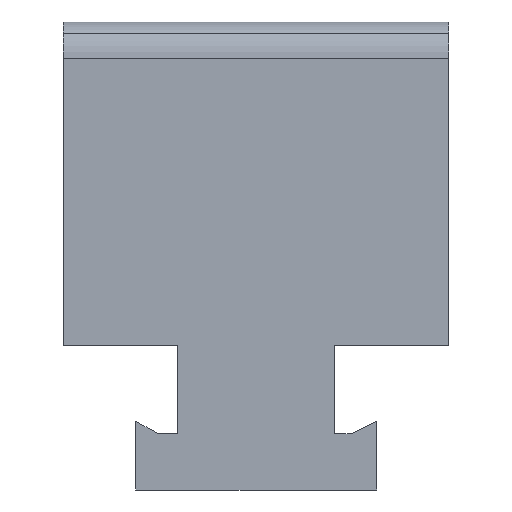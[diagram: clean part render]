
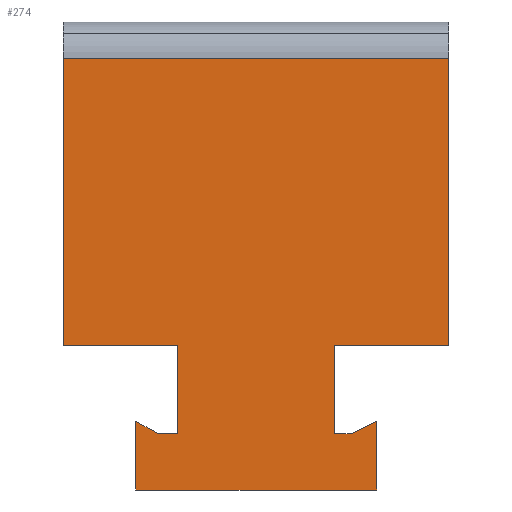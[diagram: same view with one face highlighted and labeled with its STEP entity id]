
A CAD part, left-side view. The second image highlights one B-rep face of the part: STEP entity #274.
In plain terms, the highlighted planar face has unit normal (-1, 0, 0).
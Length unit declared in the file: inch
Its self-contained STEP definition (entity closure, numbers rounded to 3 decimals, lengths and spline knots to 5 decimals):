
#148=EDGE_CURVE('',#412,#413,#414,.T.);
#154=EDGE_CURVE('',#424,#412,#425,.T.);
#274=ADVANCED_FACE('',(#614),#615,.T.);
#320=EDGE_CURVE('',#678,#679,#680,.T.);
#382=EDGE_CURVE('',#768,#413,#769,.T.);
#412=VERTEX_POINT('',#793);
#413=VERTEX_POINT('',#794);
#414=LINE('',#795,#796);
#424=VERTEX_POINT('',#811);
#425=LINE('',#812,#813);
#614=FACE_OUTER_BOUND('',#1175,.T.);
#615=PLANE('',#1176);
#678=VERTEX_POINT('',#1304);
#679=VERTEX_POINT('',#1305);
#680=LINE('',#1306,#1307);
#768=VERTEX_POINT('',#1501);
#769=LINE('',#1502,#1503);
#793=CARTESIAN_POINT('',(0.0,2.0,1.49107));
#794=CARTESIAN_POINT('',(0.0,0.,1.49107));
#795=CARTESIAN_POINT('',(0.0,2.0,1.49107));
#796=VECTOR('',#1527,1.0);
#811=CARTESIAN_POINT('',(0.0,2.0,0.));
#812=CARTESIAN_POINT('',(0.0,2.0,-0.74988));
#813=VECTOR('',#1530,1.0);
#1175=EDGE_LOOP('',(#1847,#1848,#1849,#1850,#1851,#1852,#1853,#1854,#1855,#1856,#1857,#1858,#1859,#1860));
#1176=AXIS2_PLACEMENT_3D('',#1861,#1862,#1863);
#1304=CARTESIAN_POINT('',(0.0,1.62468,-0.74988));
#1305=CARTESIAN_POINT('',(0.0,0.37467,-0.74988));
#1306=CARTESIAN_POINT('',(0.0,2.0,-0.74988));
#1307=VECTOR('',#1965,1.0);
#1501=CARTESIAN_POINT('',(0.0,0.,0.));
#1502=CARTESIAN_POINT('',(0.0,0.,-0.74988));
#1503=VECTOR('',#2167,1.0);
#1527=DIRECTION('',(0.0,-1.0,0.0));
#1530=DIRECTION('',(0.0,0.0,1.0));
#1847=ORIENTED_EDGE('',*,*,#2300,.T.);
#1848=ORIENTED_EDGE('',*,*,#2309,.T.);
#1849=ORIENTED_EDGE('',*,*,#2275,.T.);
#1850=ORIENTED_EDGE('',*,*,#2339,.T.);
#1851=ORIENTED_EDGE('',*,*,#2319,.T.);
#1852=ORIENTED_EDGE('',*,*,#382,.T.);
#1853=ORIENTED_EDGE('',*,*,#148,.F.);
#1854=ORIENTED_EDGE('',*,*,#154,.F.);
#1855=ORIENTED_EDGE('',*,*,#2340,.T.);
#1856=ORIENTED_EDGE('',*,*,#2324,.T.);
#1857=ORIENTED_EDGE('',*,*,#2341,.T.);
#1858=ORIENTED_EDGE('',*,*,#2342,.T.);
#1859=ORIENTED_EDGE('',*,*,#2244,.T.);
#1860=ORIENTED_EDGE('',*,*,#320,.T.);
#1861=CARTESIAN_POINT('',(0.0,2.0,0.3706));
#1862=DIRECTION('',(-1.0,0.0,0.0));
#1863=DIRECTION('',(0.0,0.0,-1.0));
#1965=DIRECTION('',(0.0,-1.0,0.0));
#2167=DIRECTION('',(0.0,0.0,1.0));
#2244=EDGE_CURVE('',#2490,#678,#2491,.T.);
#2275=EDGE_CURVE('',#2538,#2536,#2539,.T.);
#2300=EDGE_CURVE('',#679,#2571,#2573,.T.);
#2309=EDGE_CURVE('',#2571,#2538,#2583,.T.);
#2319=EDGE_CURVE('',#2597,#768,#2598,.T.);
#2324=EDGE_CURVE('',#2604,#2602,#2605,.T.);
#2339=EDGE_CURVE('',#2536,#2597,#2621,.T.);
#2340=EDGE_CURVE('',#424,#2604,#2622,.T.);
#2341=EDGE_CURVE('',#2602,#2623,#2624,.T.);
#2342=EDGE_CURVE('',#2623,#2490,#2625,.T.);
#2490=VERTEX_POINT('',#2826);
#2491=LINE('',#2827,#2828);
#2536=VERTEX_POINT('',#2911);
#2538=VERTEX_POINT('',#2914);
#2539=LINE('',#2915,#2916);
#2571=VERTEX_POINT('',#2966);
#2573=LINE('',#2969,#2970);
#2583=LINE('',#2984,#2985);
#2597=VERTEX_POINT('',#3005);
#2598=LINE('',#3006,#3007);
#2602=VERTEX_POINT('',#3013);
#2604=VERTEX_POINT('',#3016);
#2605=LINE('',#3017,#3018);
#2621=LINE('',#3046,#3047);
#2622=LINE('',#3048,#3049);
#2623=VERTEX_POINT('',#3050);
#2624=LINE('',#3051,#3052);
#2625=LINE('',#3053,#3054);
#2826=CARTESIAN_POINT('',(0.0,1.62468,-0.39256));
#2827=CARTESIAN_POINT('',(0.0,1.62468,-0.12285));
#2828=VECTOR('',#3220,1.0);
#2911=CARTESIAN_POINT('',(0.0,0.59367,-0.45837));
#2914=CARTESIAN_POINT('',(0.0,0.50572,-0.45837));
#2915=CARTESIAN_POINT('',(0.0,1.27485,-0.45837));
#2916=VECTOR('',#3236,1.0);
#2966=CARTESIAN_POINT('',(0.0,0.37467,-0.39256));
#2969=CARTESIAN_POINT('',(0.0,0.37467,-0.12285));
#2970=VECTOR('',#3253,1.0);
#2984=CARTESIAN_POINT('',(0.0,0.9034,-0.65808));
#2985=VECTOR('',#3261,1.0);
#3005=CARTESIAN_POINT('',(0.0,0.59367,0.));
#3006=CARTESIAN_POINT('',(0.0,1.14842,0.));
#3007=VECTOR('',#3268,1.0);
#3013=CARTESIAN_POINT('',(0.0,1.40617,-0.45837));
#3016=CARTESIAN_POINT('',(0.0,1.40617,0.));
#3017=CARTESIAN_POINT('',(0.0,1.40617,0.0707));
#3018=VECTOR('',#3272,1.0);
#3046=CARTESIAN_POINT('',(0.0,0.59367,0.0707));
#3047=VECTOR('',#3285,1.0);
#3048=CARTESIAN_POINT('',(0.0,1.85154,0.));
#3049=VECTOR('',#3286,1.0);
#3050=CARTESIAN_POINT('',(0.0,1.50572,-0.45837));
#3051=CARTESIAN_POINT('',(0.0,1.72797,-0.45837));
#3052=VECTOR('',#3287,1.0);
#3053=CARTESIAN_POINT('',(0.0,1.90026,-0.2401));
#3054=VECTOR('',#3288,1.0);
#3220=DIRECTION('',(0.0,-0.0,-1.0));
#3236=DIRECTION('',(-0.0,1.0,-0.0));
#3253=DIRECTION('',(0.0,0.0,1.0));
#3261=DIRECTION('',(-0.0,0.894,-0.449));
#3268=DIRECTION('',(0.0,-1.0,0.0));
#3272=DIRECTION('',(0.0,-0.0,-1.0));
#3285=DIRECTION('',(0.0,0.0,1.0));
#3286=DIRECTION('',(0.0,-1.0,0.0));
#3287=DIRECTION('',(-0.0,1.0,-0.0));
#3288=DIRECTION('',(0.0,0.875,0.484));
